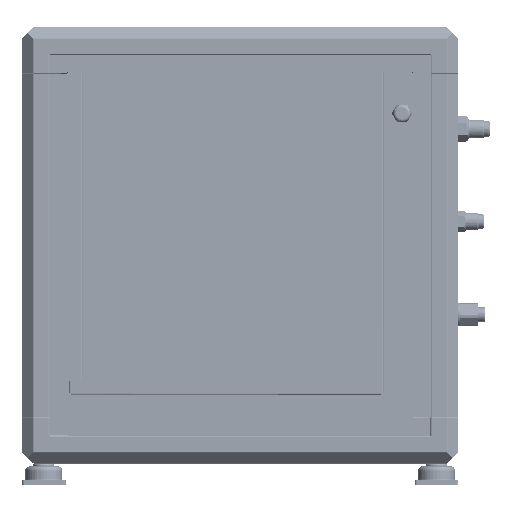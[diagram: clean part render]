
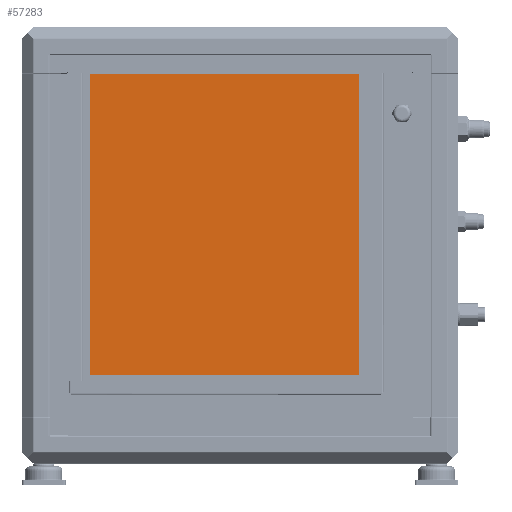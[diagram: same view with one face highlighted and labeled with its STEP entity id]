
A CAD part, left-side view. The second image highlights one B-rep face of the part: STEP entity #57283.
In plain terms, the highlighted planar face has unit normal (-1, 0, 0) as drawn and (0, 0, -1) by its records, which use the part's own axes.
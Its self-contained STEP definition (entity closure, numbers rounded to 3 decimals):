
#7773=FACE_OUTER_BOUND('',#11512,.T.);
#11512=EDGE_LOOP('',(#52806,#52807,#52808,#52809));
#18990=LINE('',#116351,#23427);
#18994=LINE('',#116359,#23431);
#18997=LINE('',#116365,#23434);
#19004=LINE('',#116379,#23441);
#23427=VECTOR('',#80813,10.);
#23431=VECTOR('',#80819,10.);
#23434=VECTOR('',#80824,10.);
#23441=VECTOR('',#80835,10.);
#28822=VERTEX_POINT('',#116349);
#28823=VERTEX_POINT('',#116350);
#28826=VERTEX_POINT('',#116358);
#28828=VERTEX_POINT('',#116364);
#36798=EDGE_CURVE('',#28822,#28823,#18990,.T.);
#36802=EDGE_CURVE('',#28826,#28822,#18994,.T.);
#36805=EDGE_CURVE('',#28823,#28828,#18997,.T.);
#36812=EDGE_CURVE('',#28828,#28826,#19004,.T.);
#52806=ORIENTED_EDGE('',*,*,#36812,.T.);
#52807=ORIENTED_EDGE('',*,*,#36802,.T.);
#52808=ORIENTED_EDGE('',*,*,#36798,.T.);
#52809=ORIENTED_EDGE('',*,*,#36805,.T.);
#54398=PLANE('',#64283);
#57283=ADVANCED_FACE('',(#7773),#54398,.F.);
#64283=AXIS2_PLACEMENT_3D('',#116423,#80877,#80878);
#80813=DIRECTION('',(1.,0.,0.));
#80819=DIRECTION('',(0.,1.,0.));
#80824=DIRECTION('',(0.,-1.,0.));
#80835=DIRECTION('',(-1.,0.,0.));
#80877=DIRECTION('center_axis',(0.,0.,1.));
#80878=DIRECTION('ref_axis',(1.,0.,0.));
#116349=CARTESIAN_POINT('',(-119.488,52.776,0.));
#116350=CARTESIAN_POINT('',(170.512,52.776,0.));
#116351=CARTESIAN_POINT('',(-46.988,52.776,0.));
#116358=CARTESIAN_POINT('',(-119.488,-272.224,0.));
#116359=CARTESIAN_POINT('',(-119.488,-190.974,0.));
#116364=CARTESIAN_POINT('',(170.512,-272.224,0.));
#116365=CARTESIAN_POINT('',(170.512,-28.474,0.));
#116379=CARTESIAN_POINT('',(98.012,-272.224,0.));
#116423=CARTESIAN_POINT('Origin',(25.512,-109.724,0.));
